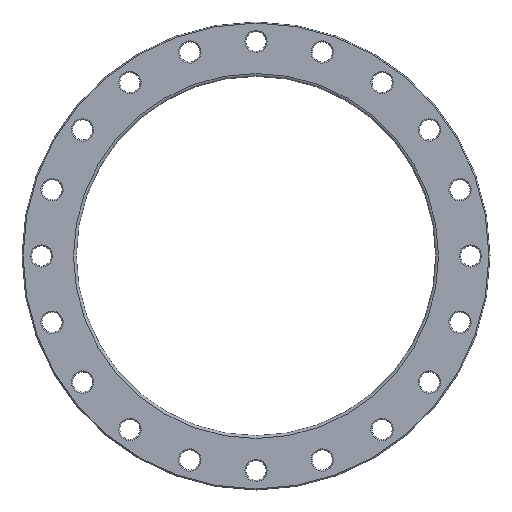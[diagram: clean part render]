
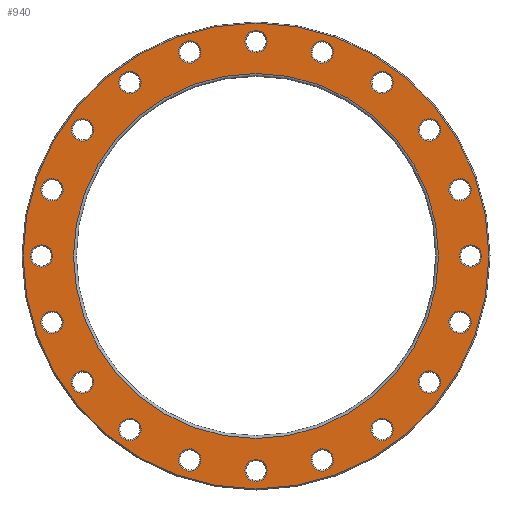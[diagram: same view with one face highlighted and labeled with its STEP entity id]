
A CAD part, front view. The second image highlights one B-rep face of the part: STEP entity #940.
In plain terms, the highlighted planar face has unit normal (0, -1, 0).
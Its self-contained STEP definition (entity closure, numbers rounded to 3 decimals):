
#23=PLANE('',#1104);
#206=ORIENTED_EDGE('',*,*,#325,.T.);
#207=ORIENTED_EDGE('',*,*,#326,.T.);
#208=ORIENTED_EDGE('',*,*,#244,.T.);
#209=ORIENTED_EDGE('',*,*,#248,.T.);
#210=ORIENTED_EDGE('',*,*,#252,.T.);
#211=ORIENTED_EDGE('',*,*,#256,.T.);
#212=ORIENTED_EDGE('',*,*,#260,.T.);
#213=ORIENTED_EDGE('',*,*,#264,.T.);
#214=ORIENTED_EDGE('',*,*,#268,.T.);
#215=ORIENTED_EDGE('',*,*,#272,.T.);
#216=ORIENTED_EDGE('',*,*,#276,.T.);
#217=ORIENTED_EDGE('',*,*,#280,.T.);
#218=ORIENTED_EDGE('',*,*,#284,.T.);
#219=ORIENTED_EDGE('',*,*,#288,.T.);
#220=ORIENTED_EDGE('',*,*,#292,.T.);
#221=ORIENTED_EDGE('',*,*,#296,.T.);
#222=ORIENTED_EDGE('',*,*,#300,.T.);
#223=ORIENTED_EDGE('',*,*,#304,.T.);
#224=ORIENTED_EDGE('',*,*,#308,.T.);
#225=ORIENTED_EDGE('',*,*,#312,.T.);
#226=ORIENTED_EDGE('',*,*,#316,.T.);
#227=ORIENTED_EDGE('',*,*,#327,.T.);
#244=EDGE_CURVE('',#332,#332,#420,.T.);
#248=EDGE_CURVE('',#336,#336,#424,.T.);
#252=EDGE_CURVE('',#340,#340,#428,.T.);
#256=EDGE_CURVE('',#344,#344,#432,.T.);
#260=EDGE_CURVE('',#348,#348,#436,.T.);
#264=EDGE_CURVE('',#352,#352,#440,.T.);
#268=EDGE_CURVE('',#356,#356,#444,.T.);
#272=EDGE_CURVE('',#360,#360,#448,.T.);
#276=EDGE_CURVE('',#364,#364,#452,.T.);
#280=EDGE_CURVE('',#368,#368,#456,.T.);
#284=EDGE_CURVE('',#372,#372,#460,.T.);
#288=EDGE_CURVE('',#376,#376,#464,.T.);
#292=EDGE_CURVE('',#380,#380,#468,.T.);
#296=EDGE_CURVE('',#384,#384,#472,.T.);
#300=EDGE_CURVE('',#388,#388,#476,.T.);
#304=EDGE_CURVE('',#392,#392,#480,.T.);
#308=EDGE_CURVE('',#396,#396,#484,.T.);
#312=EDGE_CURVE('',#400,#400,#488,.T.);
#316=EDGE_CURVE('',#404,#404,#492,.T.);
#325=EDGE_CURVE('',#413,#413,#501,.F.);
#326=EDGE_CURVE('',#414,#414,#502,.T.);
#327=EDGE_CURVE('',#415,#415,#503,.T.);
#332=VERTEX_POINT('',#1439);
#336=VERTEX_POINT('',#1450);
#340=VERTEX_POINT('',#1461);
#344=VERTEX_POINT('',#1472);
#348=VERTEX_POINT('',#1483);
#352=VERTEX_POINT('',#1494);
#356=VERTEX_POINT('',#1505);
#360=VERTEX_POINT('',#1516);
#364=VERTEX_POINT('',#1527);
#368=VERTEX_POINT('',#1538);
#372=VERTEX_POINT('',#1549);
#376=VERTEX_POINT('',#1560);
#380=VERTEX_POINT('',#1571);
#384=VERTEX_POINT('',#1582);
#388=VERTEX_POINT('',#1593);
#392=VERTEX_POINT('',#1604);
#396=VERTEX_POINT('',#1615);
#400=VERTEX_POINT('',#1626);
#404=VERTEX_POINT('',#1637);
#413=VERTEX_POINT('',#1660);
#414=VERTEX_POINT('',#1662);
#415=VERTEX_POINT('',#1664);
#420=CIRCLE('',#965,20.);
#424=CIRCLE('',#972,20.);
#428=CIRCLE('',#979,20.);
#432=CIRCLE('',#986,20.);
#436=CIRCLE('',#993,20.);
#440=CIRCLE('',#1000,20.);
#444=CIRCLE('',#1007,20.);
#448=CIRCLE('',#1014,20.);
#452=CIRCLE('',#1021,20.);
#456=CIRCLE('',#1028,20.);
#460=CIRCLE('',#1035,20.);
#464=CIRCLE('',#1042,20.);
#468=CIRCLE('',#1049,20.);
#472=CIRCLE('',#1056,20.);
#476=CIRCLE('',#1063,20.);
#480=CIRCLE('',#1070,20.);
#484=CIRCLE('',#1077,20.);
#488=CIRCLE('',#1084,20.);
#492=CIRCLE('',#1091,20.);
#501=CIRCLE('',#1105,418.);
#502=CIRCLE('',#1106,327.5);
#503=CIRCLE('',#1107,20.);
#646=EDGE_LOOP('',(#206));
#647=EDGE_LOOP('',(#207));
#648=EDGE_LOOP('',(#208));
#649=EDGE_LOOP('',(#209));
#650=EDGE_LOOP('',(#210));
#651=EDGE_LOOP('',(#211));
#652=EDGE_LOOP('',(#212));
#653=EDGE_LOOP('',(#213));
#654=EDGE_LOOP('',(#214));
#655=EDGE_LOOP('',(#215));
#656=EDGE_LOOP('',(#216));
#657=EDGE_LOOP('',(#217));
#658=EDGE_LOOP('',(#218));
#659=EDGE_LOOP('',(#219));
#660=EDGE_LOOP('',(#220));
#661=EDGE_LOOP('',(#221));
#662=EDGE_LOOP('',(#222));
#663=EDGE_LOOP('',(#223));
#664=EDGE_LOOP('',(#224));
#665=EDGE_LOOP('',(#225));
#666=EDGE_LOOP('',(#226));
#667=EDGE_LOOP('',(#227));
#822=FACE_BOUND('',#646,.T.);
#823=FACE_BOUND('',#647,.T.);
#824=FACE_BOUND('',#648,.T.);
#825=FACE_BOUND('',#649,.T.);
#826=FACE_BOUND('',#650,.T.);
#827=FACE_BOUND('',#651,.T.);
#828=FACE_BOUND('',#652,.T.);
#829=FACE_BOUND('',#653,.T.);
#830=FACE_BOUND('',#654,.T.);
#831=FACE_BOUND('',#655,.T.);
#832=FACE_BOUND('',#656,.T.);
#833=FACE_BOUND('',#657,.T.);
#834=FACE_BOUND('',#658,.T.);
#835=FACE_BOUND('',#659,.T.);
#836=FACE_BOUND('',#660,.T.);
#837=FACE_BOUND('',#661,.T.);
#838=FACE_BOUND('',#662,.T.);
#839=FACE_BOUND('',#663,.T.);
#840=FACE_BOUND('',#664,.T.);
#841=FACE_BOUND('',#665,.T.);
#842=FACE_BOUND('',#666,.T.);
#843=FACE_BOUND('',#667,.T.);
#940=ADVANCED_FACE('',(#822,#823,#824,#825,#826,#827,#828,#829,#830,#831,
#832,#833,#834,#835,#836,#837,#838,#839,#840,#841,#842,#843),#23,.F.);
#965=AXIS2_PLACEMENT_3D('',#1438,#1127,#1128);
#972=AXIS2_PLACEMENT_3D('',#1449,#1141,#1142);
#979=AXIS2_PLACEMENT_3D('',#1460,#1155,#1156);
#986=AXIS2_PLACEMENT_3D('',#1471,#1169,#1170);
#993=AXIS2_PLACEMENT_3D('',#1482,#1183,#1184);
#1000=AXIS2_PLACEMENT_3D('',#1493,#1197,#1198);
#1007=AXIS2_PLACEMENT_3D('',#1504,#1211,#1212);
#1014=AXIS2_PLACEMENT_3D('',#1515,#1225,#1226);
#1021=AXIS2_PLACEMENT_3D('',#1526,#1239,#1240);
#1028=AXIS2_PLACEMENT_3D('',#1537,#1253,#1254);
#1035=AXIS2_PLACEMENT_3D('',#1548,#1267,#1268);
#1042=AXIS2_PLACEMENT_3D('',#1559,#1281,#1282);
#1049=AXIS2_PLACEMENT_3D('',#1570,#1295,#1296);
#1056=AXIS2_PLACEMENT_3D('',#1581,#1309,#1310);
#1063=AXIS2_PLACEMENT_3D('',#1592,#1323,#1324);
#1070=AXIS2_PLACEMENT_3D('',#1603,#1337,#1338);
#1077=AXIS2_PLACEMENT_3D('',#1614,#1351,#1352);
#1084=AXIS2_PLACEMENT_3D('',#1625,#1365,#1366);
#1091=AXIS2_PLACEMENT_3D('',#1636,#1379,#1380);
#1104=AXIS2_PLACEMENT_3D('',#1658,#1405,#1406);
#1105=AXIS2_PLACEMENT_3D('',#1659,#1407,#1408);
#1106=AXIS2_PLACEMENT_3D('',#1661,#1409,#1410);
#1107=AXIS2_PLACEMENT_3D('',#1663,#1411,#1412);
#1127=DIRECTION('',(0.,1.,0.));
#1128=DIRECTION('',(0.951,0.,0.309));
#1141=DIRECTION('',(0.,1.,0.));
#1142=DIRECTION('',(0.809,0.,0.588));
#1155=DIRECTION('',(0.,1.,0.));
#1156=DIRECTION('',(0.588,0.,0.809));
#1169=DIRECTION('',(0.,1.,0.));
#1170=DIRECTION('',(0.309,0.,0.951));
#1183=DIRECTION('',(0.,1.,0.));
#1184=DIRECTION('',(0.,0.,1.));
#1197=DIRECTION('',(0.,1.,0.));
#1198=DIRECTION('',(-0.309,0.,0.951));
#1211=DIRECTION('',(0.,1.,0.));
#1212=DIRECTION('',(-0.588,0.,0.809));
#1225=DIRECTION('',(0.,1.,0.));
#1226=DIRECTION('',(-0.809,0.,0.588));
#1239=DIRECTION('',(0.,1.,0.));
#1240=DIRECTION('',(-0.951,0.,0.309));
#1253=DIRECTION('',(0.,1.,0.));
#1254=DIRECTION('',(-1.,0.,0.));
#1267=DIRECTION('',(0.,1.,0.));
#1268=DIRECTION('',(-0.951,0.,-0.309));
#1281=DIRECTION('',(0.,1.,0.));
#1282=DIRECTION('',(-0.809,0.,-0.588));
#1295=DIRECTION('',(0.,1.,0.));
#1296=DIRECTION('',(-0.588,0.,-0.809));
#1309=DIRECTION('',(0.,1.,0.));
#1310=DIRECTION('',(-0.309,0.,-0.951));
#1323=DIRECTION('',(0.,1.,0.));
#1324=DIRECTION('',(0.,0.,-1.));
#1337=DIRECTION('',(0.,1.,0.));
#1338=DIRECTION('',(0.309,0.,-0.951));
#1351=DIRECTION('',(0.,1.,0.));
#1352=DIRECTION('',(0.588,0.,-0.809));
#1365=DIRECTION('',(0.,1.,0.));
#1366=DIRECTION('',(0.809,0.,-0.588));
#1379=DIRECTION('',(0.,1.,0.));
#1380=DIRECTION('',(0.951,0.,-0.309));
#1405=DIRECTION('',(0.,1.,0.));
#1406=DIRECTION('',(0.,0.,1.));
#1407=DIRECTION('',(0.,1.,0.));
#1408=DIRECTION('',(0.,0.,1.));
#1409=DIRECTION('',(0.,1.,0.));
#1410=DIRECTION('',(0.,0.,1.));
#1411=DIRECTION('',(0.,1.,0.));
#1412=DIRECTION('',(1.,0.,0.));
#1438=CARTESIAN_POINT('',(-118.972,0.,366.157));
#1439=CARTESIAN_POINT('',(-99.95,0.,372.337));
#1449=CARTESIAN_POINT('',(-226.297,0.,311.472));
#1450=CARTESIAN_POINT('',(-210.117,0.,323.227));
#1460=CARTESIAN_POINT('',(-311.472,0.,226.297));
#1461=CARTESIAN_POINT('',(-299.716,0.,242.478));
#1471=CARTESIAN_POINT('',(-366.157,0.,118.972));
#1472=CARTESIAN_POINT('',(-359.976,0.,137.993));
#1482=CARTESIAN_POINT('',(-385.,0.,0.));
#1483=CARTESIAN_POINT('',(-385.,0.,20.));
#1493=CARTESIAN_POINT('',(-366.157,0.,-118.972));
#1494=CARTESIAN_POINT('',(-372.337,0.,-99.95));
#1504=CARTESIAN_POINT('',(-311.472,0.,-226.297));
#1505=CARTESIAN_POINT('',(-323.227,0.,-210.117));
#1515=CARTESIAN_POINT('',(-226.297,0.,-311.472));
#1516=CARTESIAN_POINT('',(-242.478,0.,-299.716));
#1526=CARTESIAN_POINT('',(-118.972,0.,-366.157));
#1527=CARTESIAN_POINT('',(-137.993,0.,-359.976));
#1537=CARTESIAN_POINT('',(0.,0.,-385.));
#1538=CARTESIAN_POINT('',(-20.,0.,-385.));
#1548=CARTESIAN_POINT('',(118.972,0.,-366.157));
#1549=CARTESIAN_POINT('',(99.95,0.,-372.337));
#1559=CARTESIAN_POINT('',(226.297,0.,-311.472));
#1560=CARTESIAN_POINT('',(210.117,0.,-323.227));
#1570=CARTESIAN_POINT('',(311.472,0.,-226.297));
#1571=CARTESIAN_POINT('',(299.716,0.,-242.478));
#1581=CARTESIAN_POINT('',(366.157,0.,-118.972));
#1582=CARTESIAN_POINT('',(359.976,0.,-137.993));
#1592=CARTESIAN_POINT('',(385.,0.,0.));
#1593=CARTESIAN_POINT('',(385.,0.,-20.));
#1603=CARTESIAN_POINT('',(366.157,0.,118.972));
#1604=CARTESIAN_POINT('',(372.337,0.,99.95));
#1614=CARTESIAN_POINT('',(311.472,0.,226.297));
#1615=CARTESIAN_POINT('',(323.227,0.,210.117));
#1625=CARTESIAN_POINT('',(226.297,0.,311.472));
#1626=CARTESIAN_POINT('',(242.478,0.,299.716));
#1636=CARTESIAN_POINT('',(118.972,0.,366.157));
#1637=CARTESIAN_POINT('',(137.993,0.,359.976));
#1658=CARTESIAN_POINT('',(0.,0.,0.));
#1659=CARTESIAN_POINT('',(0.,0.,0.));
#1660=CARTESIAN_POINT('',(0.,0.,418.));
#1661=CARTESIAN_POINT('',(0.,0.,0.));
#1662=CARTESIAN_POINT('',(0.,0.,327.5));
#1663=CARTESIAN_POINT('',(0.,0.,385.));
#1664=CARTESIAN_POINT('',(20.,0.,385.));
